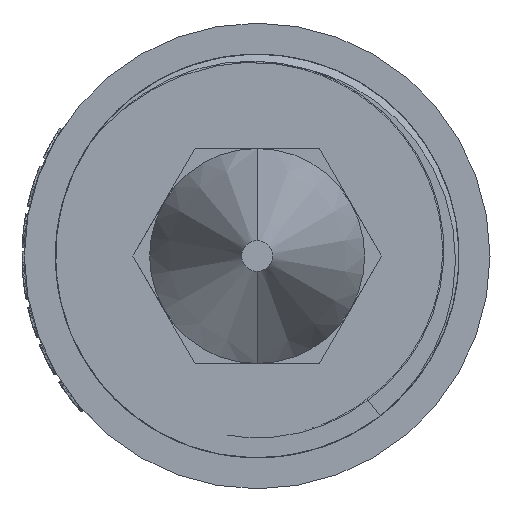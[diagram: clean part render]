
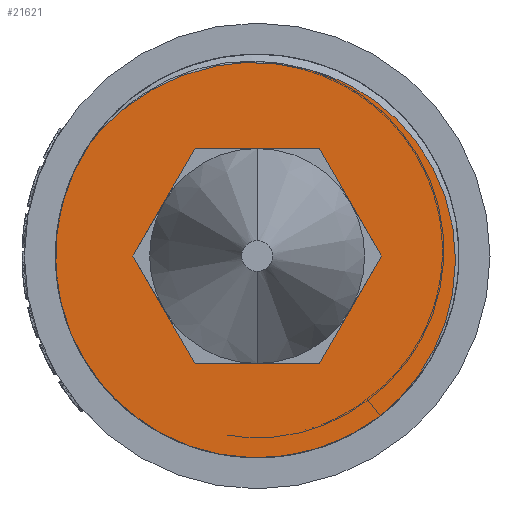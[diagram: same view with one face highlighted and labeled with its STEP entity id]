
A CAD part, left-side view. The second image highlights one B-rep face of the part: STEP entity #21621.
In plain terms, the highlighted planar face has unit normal (-1, 0, 0) as drawn and (0, 0, -1) by its records, which use the part's own axes.
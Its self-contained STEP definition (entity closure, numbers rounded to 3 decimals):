
#20322=CARTESIAN_POINT('',(10.617,-7.502,0.));
#20323=CARTESIAN_POINT('',(10.604,-7.519,0.));
#20324=CARTESIAN_POINT('',(10.577,-7.554,0.));
#20325=CARTESIAN_POINT('',(10.55,-7.588,0.));
#20326=CARTESIAN_POINT('',(10.536,-7.605,0.));
#20328=CARTESIAN_POINT('',(-9.453,8.648,0.));
#20329=CARTESIAN_POINT('',(-9.244,8.911,0.));
#20330=CARTESIAN_POINT('',(-8.823,9.4,0.));
#20331=CARTESIAN_POINT('',(-8.202,10.025,0.));
#20332=CARTESIAN_POINT('',(-7.792,10.387,0.));
#20333=CARTESIAN_POINT('',(-7.589,10.555,0.));
#20335=CARTESIAN_POINT('',(-11.904,-3.688,0.));
#20336=CARTESIAN_POINT('',(-11.911,-3.664,0.));
#20337=CARTESIAN_POINT('',(-11.925,-3.612,0.));
#20338=CARTESIAN_POINT('',(-11.95,-3.527,0.));
#20339=CARTESIAN_POINT('',(-11.975,-3.434,0.));
#20340=CARTESIAN_POINT('',(-12.002,-3.336,0.));
#20341=CARTESIAN_POINT('',(-12.029,-3.233,0.));
#20342=CARTESIAN_POINT('',(-12.056,-3.127,0.));
#20343=CARTESIAN_POINT('',(-12.083,-3.018,0.));
#20344=CARTESIAN_POINT('',(-12.109,-2.908,0.));
#20345=CARTESIAN_POINT('',(-12.135,-2.799,0.));
#20346=CARTESIAN_POINT('',(-12.159,-2.69,0.));
#20347=CARTESIAN_POINT('',(-12.182,-2.584,0.));
#20348=CARTESIAN_POINT('',(-12.204,-2.477,0.));
#20349=CARTESIAN_POINT('',(-12.226,-2.368,0.));
#20350=CARTESIAN_POINT('',(-12.248,-2.253,0.));
#20351=CARTESIAN_POINT('',(-12.271,-2.129,0.));
#20352=CARTESIAN_POINT('',(-12.294,-1.994,0.));
#20353=CARTESIAN_POINT('',(-12.319,-1.844,0.));
#20354=CARTESIAN_POINT('',(-12.344,-1.678,0.));
#20355=CARTESIAN_POINT('',(-12.369,-1.492,0.));
#20356=CARTESIAN_POINT('',(-12.395,-1.283,0.));
#20357=CARTESIAN_POINT('',(-12.42,-1.049,0.));
#20358=CARTESIAN_POINT('',(-12.442,-0.786,0.));
#20359=CARTESIAN_POINT('',(-12.461,-0.492,0.));
#20360=CARTESIAN_POINT('',(-12.475,-0.164,0.));
#20361=CARTESIAN_POINT('',(-12.481,0.201,0.));
#20362=CARTESIAN_POINT('',(-12.476,0.604,0.));
#20363=CARTESIAN_POINT('',(-12.455,1.048,0.));
#20364=CARTESIAN_POINT('',(-12.416,1.537,0.));
#20365=CARTESIAN_POINT('',(-12.352,2.064,0.));
#20366=CARTESIAN_POINT('',(-12.265,2.596,0.));
#20367=CARTESIAN_POINT('',(-12.161,3.099,0.));
#20368=CARTESIAN_POINT('',(-12.047,3.566,0.));
#20369=CARTESIAN_POINT('',(-11.924,3.999,0.));
#20370=CARTESIAN_POINT('',(-11.797,4.399,0.));
#20371=CARTESIAN_POINT('',(-11.666,4.769,0.));
#20372=CARTESIAN_POINT('',(-11.536,5.108,0.));
#20373=CARTESIAN_POINT('',(-11.406,5.419,0.));
#20374=CARTESIAN_POINT('',(-11.28,5.704,0.));
#20375=CARTESIAN_POINT('',(-11.157,5.963,0.));
#20376=CARTESIAN_POINT('',(-11.04,6.2,0.));
#20377=CARTESIAN_POINT('',(-10.928,6.414,0.));
#20378=CARTESIAN_POINT('',(-10.822,6.609,0.));
#20379=CARTESIAN_POINT('',(-10.723,6.785,0.));
#20380=CARTESIAN_POINT('',(-10.63,6.945,0.));
#20381=CARTESIAN_POINT('',(-10.544,7.089,0.));
#20382=CARTESIAN_POINT('',(-10.464,7.219,0.));
#20383=CARTESIAN_POINT('',(-10.391,7.336,0.));
#20384=CARTESIAN_POINT('',(-10.323,7.442,0.));
#20385=CARTESIAN_POINT('',(-10.26,7.538,0.));
#20386=CARTESIAN_POINT('',(-10.202,7.625,0.));
#20387=CARTESIAN_POINT('',(-10.148,7.704,0.));
#20388=CARTESIAN_POINT('',(-10.098,7.777,0.));
#20389=CARTESIAN_POINT('',(-10.052,7.845,0.));
#20390=CARTESIAN_POINT('',(-10.007,7.908,0.));
#20391=CARTESIAN_POINT('',(-9.965,7.968,0.));
#20392=CARTESIAN_POINT('',(-9.923,8.027,0.));
#20393=CARTESIAN_POINT('',(-9.882,8.083,0.));
#20394=CARTESIAN_POINT('',(-9.843,8.137,0.));
#20395=CARTESIAN_POINT('',(-9.805,8.189,0.));
#20396=CARTESIAN_POINT('',(-9.767,8.239,0.));
#20397=CARTESIAN_POINT('',(-9.731,8.287,0.));
#20398=CARTESIAN_POINT('',(-9.696,8.334,0.));
#20399=CARTESIAN_POINT('',(-9.662,8.379,0.));
#20400=CARTESIAN_POINT('',(-9.629,8.422,0.));
#20401=CARTESIAN_POINT('',(-9.597,8.463,0.));
#20402=CARTESIAN_POINT('',(-9.566,8.503,0.));
#20403=CARTESIAN_POINT('',(-9.536,8.542,0.));
#20404=CARTESIAN_POINT('',(-9.508,8.578,0.));
#20405=CARTESIAN_POINT('',(-9.48,8.614,0.));
#20406=CARTESIAN_POINT('',(-9.462,8.637,0.));
#20407=CARTESIAN_POINT('',(-9.453,8.648,0.));
#20409=CARTESIAN_POINT('',(10.536,-7.605,0.));
#20410=CARTESIAN_POINT('',(10.229,-8.015,0.));
#20411=CARTESIAN_POINT('',(9.569,-8.795,0.));
#20412=CARTESIAN_POINT('',(8.422,-9.862,0.));
#20413=CARTESIAN_POINT('',(7.156,-10.78,0.));
#20414=CARTESIAN_POINT('',(5.823,-11.521,0.));
#20415=CARTESIAN_POINT('',(4.426,-12.098,0.));
#20416=CARTESIAN_POINT('',(2.866,-12.535,0.));
#20417=CARTESIAN_POINT('',(1.076,-12.792,0.));
#20418=CARTESIAN_POINT('',(-1.058,-12.772,0.));
#20419=CARTESIAN_POINT('',(-3.388,-12.319,0.));
#20420=CARTESIAN_POINT('',(-5.535,-11.458,0.));
#20421=CARTESIAN_POINT('',(-7.384,-10.305,0.));
#20422=CARTESIAN_POINT('',(-8.943,-8.923,0.));
#20423=CARTESIAN_POINT('',(-10.224,-7.353,0.));
#20424=CARTESIAN_POINT('',(-11.24,-5.594,0.));
#20425=CARTESIAN_POINT('',(-11.715,-4.34,0.));
#20426=CARTESIAN_POINT('',(-11.904,-3.688,0.));
#20839=CARTESIAN_POINT('',(0.,0.,0.));
#20840=DIRECTION('',(0.,0.,-1.));
#20841=DIRECTION('',(-0.584,0.812,0.));
#20842=AXIS2_PLACEMENT_3D('',#20839,#20840,#20841);
#21566=VERTEX_POINT('',#20322);
#21567=VERTEX_POINT('',#20326);
#21568=VERTEX_POINT('',#20335);
#21569=VERTEX_POINT('',#20407);
#21570=VERTEX_POINT('',#20333);
#21604=CARTESIAN_POINT('',(0.,0.,0.));
#21605=DIRECTION('',(0.,0.,1.));
#21606=DIRECTION('',(1.,0.,0.));
#21607=AXIS2_PLACEMENT_3D('',#21604,#21605,#21606);
#21608=PLANE('',#21607);
#21610=ORIENTED_EDGE('',*,*,#21609,.F.);
#21612=ORIENTED_EDGE('',*,*,#21611,.F.);
#21614=ORIENTED_EDGE('',*,*,#21613,.F.);
#21616=ORIENTED_EDGE('',*,*,#21615,.F.);
#21618=ORIENTED_EDGE('',*,*,#21617,.F.);
#21619=EDGE_LOOP('',(#21610,#21612,#21614,#21616,#21618));
#21620=FACE_OUTER_BOUND('',#21619,.F.);
#21621=ADVANCED_FACE('',(#21620),#21608,.F.);
#20327=B_SPLINE_CURVE_WITH_KNOTS('',3,(#20322,#20323,#20324,#20325,#20326),
.UNSPECIFIED.,.F.,.F.,(4,1,4),(0.,0.5,1.),.UNSPECIFIED.);
#20334=B_SPLINE_CURVE_WITH_KNOTS('',3,(#20328,#20329,#20330,#20331,#20332,
#20333),.UNSPECIFIED.,.F.,.F.,(4,1,1,4),(0.,0.333,
0.667,1.),.UNSPECIFIED.);
#20408=B_SPLINE_CURVE_WITH_KNOTS('',3,(#20335,#20336,#20337,#20338,#20339,
#20340,#20341,#20342,#20343,#20344,#20345,#20346,#20347,#20348,#20349,#20350,
#20351,#20352,#20353,#20354,#20355,#20356,#20357,#20358,#20359,#20360,#20361,
#20362,#20363,#20364,#20365,#20366,#20367,#20368,#20369,#20370,#20371,#20372,
#20373,#20374,#20375,#20376,#20377,#20378,#20379,#20380,#20381,#20382,#20383,
#20384,#20385,#20386,#20387,#20388,#20389,#20390,#20391,#20392,#20393,#20394,
#20395,#20396,#20397,#20398,#20399,#20400,#20401,#20402,#20403,#20404,#20405,
#20406,#20407),.UNSPECIFIED.,.F.,.F.,(4,1,1,1,1,1,1,1,1,1,1,1,1,1,1,1,1,1,1,1,1,
1,1,1,1,1,1,1,1,1,1,1,1,1,1,1,1,1,1,1,1,1,1,1,1,1,1,1,1,1,1,1,1,1,1,1,1,1,1,1,1,
1,1,1,1,1,1,1,1,1,4),(0.,0.014,0.029,
0.043,0.057,0.071,0.086,0.1,
0.114,0.129,0.143,0.157,
0.171,0.186,0.2,0.214,0.229,
0.243,0.257,0.271,0.286,0.3,
0.314,0.329,0.343,0.357,
0.371,0.386,0.4,0.414,0.429,
0.443,0.457,0.471,0.486,0.5,
0.514,0.529,0.543,0.557,
0.571,0.586,0.6,0.614,0.629,
0.643,0.657,0.671,0.686,0.7,
0.714,0.729,0.743,0.757,
0.771,0.786,0.8,0.814,0.829,
0.843,0.857,0.871,0.886,0.9,
0.914,0.929,0.943,0.957,
0.971,0.986,1.),.UNSPECIFIED.);
#20427=B_SPLINE_CURVE_WITH_KNOTS('',3,(#20409,#20410,#20411,#20412,#20413,
#20414,#20415,#20416,#20417,#20418,#20419,#20420,#20421,#20422,#20423,#20424,
#20425,#20426),.UNSPECIFIED.,.F.,.F.,(4,1,1,1,1,1,1,1,1,1,1,1,1,1,1,4),(0.,
0.067,0.133,0.2,0.267,0.333,
0.4,0.467,0.533,0.6,0.667,
0.733,0.8,0.867,0.933,1.),
.UNSPECIFIED.);
#20843=CIRCLE('',#20842,13.);
#21609=EDGE_CURVE('',#21566,#21567,#20327,.T.);
#21611=EDGE_CURVE('',#21570,#21566,#20843,.T.);
#21613=EDGE_CURVE('',#21569,#21570,#20334,.T.);
#21615=EDGE_CURVE('',#21568,#21569,#20408,.T.);
#21617=EDGE_CURVE('',#21567,#21568,#20427,.T.);
